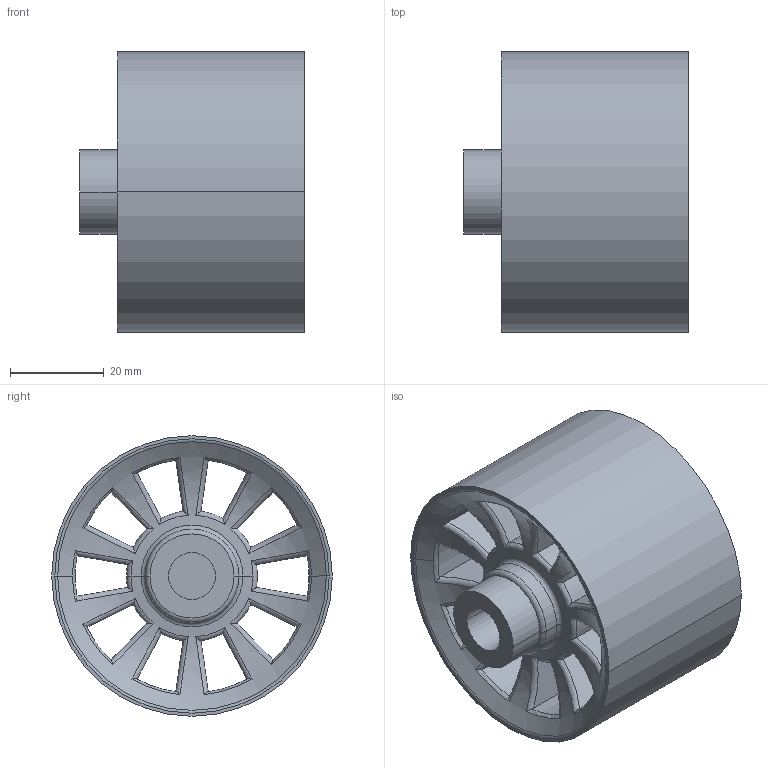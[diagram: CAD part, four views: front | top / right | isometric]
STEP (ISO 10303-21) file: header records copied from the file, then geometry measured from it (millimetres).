
FILE_DESCRIPTION (( 'STEP AP203' ), '1' );
FILE_NAME ('Wheelhub.STEP', '2021-06-04T13:42:41', ( '' ), ( '' ), 'SwSTEP 2.0', 'SolidWorks 2016', '' );
FILE_SCHEMA (( 'CONFIG_CONTROL_DESIGN' ));
Length unit declared in the file: centimetre
Products named in the file (1): Wheelhub
Bounding box: 48 x 60 x 60 mm (x, y, z)
Volume: 74173 mm3; surface area: 24308.2 mm2
Topology: 1 solids, 1 shells, 155 faces, 440 edges, 286 vertices
Faces by surface type: torus 56, bspline 44, cylinder 30, plane 25
Entity records: 7233 total; most frequent: CARTESIAN_POINT 3630, ORIENTED_EDGE 880, DIRECTION 558, EDGE_CURVE 440, VERTEX_POINT 286, AXIS2_PLACEMENT_3D 254, B_SPLINE_CURVE_WITH_KNOTS 248, EDGE_LOOP 174
